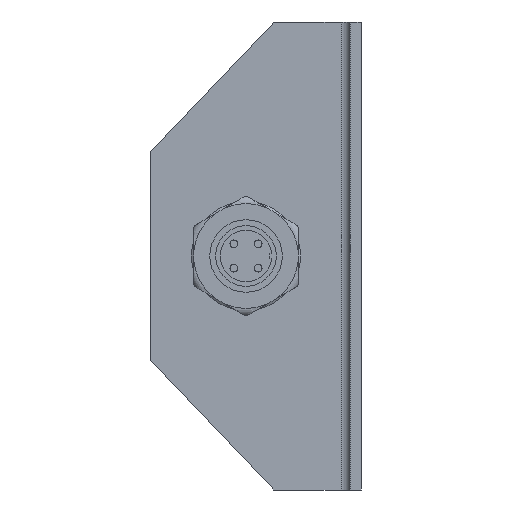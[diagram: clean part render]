
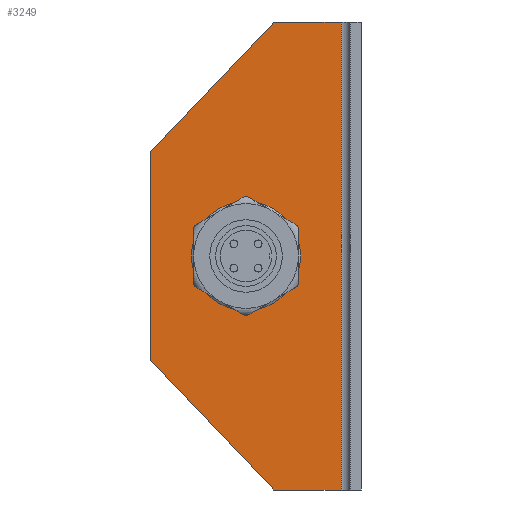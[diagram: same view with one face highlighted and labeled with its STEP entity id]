
A CAD part, left-side view. The second image highlights one B-rep face of the part: STEP entity #3249.
In plain terms, the highlighted planar face has unit normal (-1, 0, 0) as drawn and (1, 0, 0) by its records, which use the part's own axes.
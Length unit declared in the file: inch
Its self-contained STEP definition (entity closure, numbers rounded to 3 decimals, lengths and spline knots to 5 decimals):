
#38 = CARTESIAN_POINT ( 'NONE',  ( 0.07, 0.14, -1.5 ) ) ;
#81 = DIRECTION ( 'NONE',  ( 0., -0.689, -0.724 ) ) ;
#127 = VECTOR ( 'NONE', #81, 39.37008 ) ;
#250 = FACE_OUTER_BOUND ( 'NONE', #2710, .T. ) ;
#270 = VECTOR ( 'NONE', #5614, 39.37008 ) ;
#443 = CARTESIAN_POINT ( 'NONE',  ( 0.07, 0.749, 0. ) ) ;
#497 = VERTEX_POINT ( 'NONE', #3479 ) ;
#548 = CARTESIAN_POINT ( 'NONE',  ( 0.07, 1.36, -0.67 ) ) ;
#582 = LINE ( 'NONE', #5967, #5712 ) ;
#674 = LINE ( 'NONE', #3460, #4626 ) ;
#807 = AXIS2_PLACEMENT_3D ( 'NONE', #4543, #2495, #4495 ) ;
#853 = CARTESIAN_POINT ( 'NONE',  ( 0.07, 0.14, -1.5 ) ) ;
#916 = CARTESIAN_POINT ( 'NONE',  ( 0.07, 0.57, 1.5 ) ) ;
#946 = DIRECTION ( 'NONE',  ( 0., 0., -1. ) ) ;
#1000 = LINE ( 'NONE', #3638, #127 ) ;
#1269 = FACE_BOUND ( 'NONE', #1771, .T. ) ;
#1411 = ORIENTED_EDGE ( 'NONE', *, *, #1654, .F. ) ;
#1450 = ORIENTED_EDGE ( 'NONE', *, *, #5474, .F. ) ;
#1602 = CIRCLE ( 'NONE', #2748, 0.235 ) ;
#1618 = LINE ( 'NONE', #38, #270 ) ;
#1654 = EDGE_CURVE ( 'NONE', #5825, #5436, #674, .T. ) ;
#1739 = CARTESIAN_POINT ( 'NONE',  ( 0.07, 0.14, -1.5 ) ) ;
#1771 = EDGE_LOOP ( 'NONE', ( #1917, #3296 ) ) ;
#1871 = DIRECTION ( 'NONE',  ( 0., 0., -1. ) ) ;
#1917 = ORIENTED_EDGE ( 'NONE', *, *, #2779, .F. ) ;
#2183 = VERTEX_POINT ( 'NONE', #548 ) ;
#2418 = DIRECTION ( 'NONE',  ( 0., 0., 1. ) ) ;
#2436 = DIRECTION ( 'NONE',  ( 0., 1., 0. ) ) ;
#2474 = CARTESIAN_POINT ( 'NONE',  ( 0.07, 0.57, 1.5 ) ) ;
#2495 = DIRECTION ( 'NONE',  ( 1., 0., 0. ) ) ;
#2619 = EDGE_CURVE ( 'NONE', #2183, #497, #582, .T. ) ;
#2710 = EDGE_LOOP ( 'NONE', ( #5064, #1411, #5734, #5503, #1450, #3879 ) ) ;
#2748 = AXIS2_PLACEMENT_3D ( 'NONE', #443, #6056, #946 ) ;
#2779 = EDGE_CURVE ( 'NONE', #4372, #6145, #1602, .T. ) ;
#2896 = DIRECTION ( 'NONE',  ( 0., 0., 1. ) ) ;
#3043 = VECTOR ( 'NONE', #2896, 39.37008 ) ;
#3249 = ADVANCED_FACE ( 'NONE', ( #1269, #250 ), #4882, .T. ) ;
#3296 = ORIENTED_EDGE ( 'NONE', *, *, #4409, .F. ) ;
#3444 = CARTESIAN_POINT ( 'NONE',  ( 0.07, 0.14, -1.5 ) ) ;
#3460 = CARTESIAN_POINT ( 'NONE',  ( 0.07, 0.14, 1.5 ) ) ;
#3479 = CARTESIAN_POINT ( 'NONE',  ( 0.07, 1.36, 0.67 ) ) ;
#3638 = CARTESIAN_POINT ( 'NONE',  ( 0.07, 0.57, -1.5 ) ) ;
#3832 = LINE ( 'NONE', #3444, #3043 ) ;
#3850 = CARTESIAN_POINT ( 'NONE',  ( 0.07, 0.749, 0.235 ) ) ;
#3879 = ORIENTED_EDGE ( 'NONE', *, *, #2619, .T. ) ;
#4222 = VERTEX_POINT ( 'NONE', #1739 ) ;
#4372 = VERTEX_POINT ( 'NONE', #5358 ) ;
#4409 = EDGE_CURVE ( 'NONE', #6145, #4372, #5048, .T. ) ;
#4437 = CARTESIAN_POINT ( 'NONE',  ( 0.07, 0.14, 1.5 ) ) ;
#4495 = DIRECTION ( 'NONE',  ( 0., 0., -1. ) ) ;
#4543 = CARTESIAN_POINT ( 'NONE',  ( 0.07, 0.749, 0. ) ) ;
#4626 = VECTOR ( 'NONE', #2436, 39.37008 ) ;
#4882 = PLANE ( 'NONE',  #5356 ) ;
#4901 = VERTEX_POINT ( 'NONE', #5456 ) ;
#5048 = CIRCLE ( 'NONE', #807, 0.235 ) ;
#5064 = ORIENTED_EDGE ( 'NONE', *, *, #5848, .F. ) ;
#5208 = EDGE_CURVE ( 'NONE', #4222, #5825, #3832, .T. ) ;
#5356 = AXIS2_PLACEMENT_3D ( 'NONE', #853, #5461, #1871 ) ;
#5358 = CARTESIAN_POINT ( 'NONE',  ( 0.07, 0.749, -0.235 ) ) ;
#5417 = DIRECTION ( 'NONE',  ( 0., 0.689, -0.724 ) ) ;
#5436 = VERTEX_POINT ( 'NONE', #2474 ) ;
#5456 = CARTESIAN_POINT ( 'NONE',  ( 0.07, 0.57, -1.5 ) ) ;
#5461 = DIRECTION ( 'NONE',  ( 1., 0., 0. ) ) ;
#5474 = EDGE_CURVE ( 'NONE', #2183, #4901, #1000, .T. ) ;
#5491 = VECTOR ( 'NONE', #5417, 39.37008 ) ;
#5503 = ORIENTED_EDGE ( 'NONE', *, *, #5990, .T. ) ;
#5614 = DIRECTION ( 'NONE',  ( 0., 1., 0. ) ) ;
#5712 = VECTOR ( 'NONE', #2418, 39.37008 ) ;
#5734 = ORIENTED_EDGE ( 'NONE', *, *, #5208, .F. ) ;
#5825 = VERTEX_POINT ( 'NONE', #4437 ) ;
#5848 = EDGE_CURVE ( 'NONE', #5436, #497, #6531, .T. ) ;
#5967 = CARTESIAN_POINT ( 'NONE',  ( 0.07, 1.36, -1.5 ) ) ;
#5990 = EDGE_CURVE ( 'NONE', #4222, #4901, #1618, .T. ) ;
#6056 = DIRECTION ( 'NONE',  ( 1., 0., 0. ) ) ;
#6145 = VERTEX_POINT ( 'NONE', #3850 ) ;
#6531 = LINE ( 'NONE', #916, #5491 ) ;
